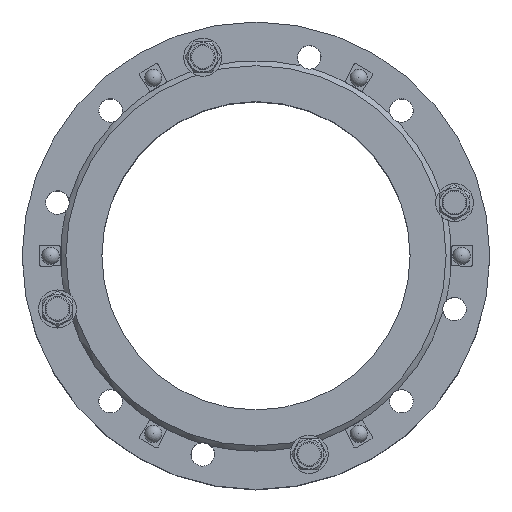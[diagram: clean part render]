
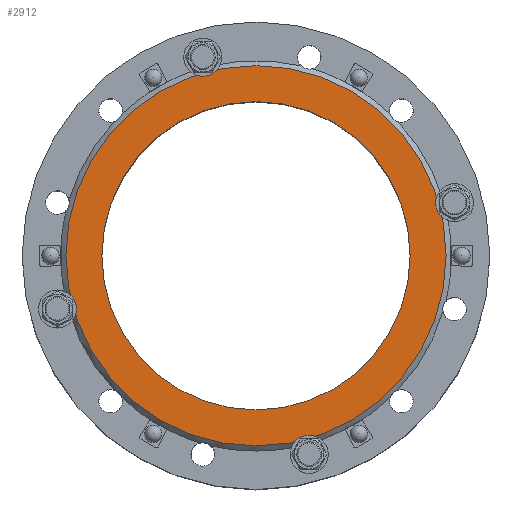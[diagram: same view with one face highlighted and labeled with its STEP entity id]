
A CAD part, top view. The second image highlights one B-rep face of the part: STEP entity #2912.
In plain terms, the highlighted planar face has unit normal (0, 0, 1) as drawn and (0, 0, -1) by its records, which use the part's own axes.
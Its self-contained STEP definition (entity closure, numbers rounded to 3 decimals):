
#2912=ADVANCED_FACE('',(#4399,#4401),#4403,.F.);
#4399=FACE_BOUND('',#4400,.T.);
#4400=EDGE_LOOP('',(#6535));
#4401=FACE_BOUND('',#4402,.T.);
#4402=EDGE_LOOP('',(#6536));
#4403=PLANE('',#4404);
#4404=AXIS2_PLACEMENT_3D('',#4405,#4406,#4407);
#4405=CARTESIAN_POINT('',(0.,0.,0.));
#4406=DIRECTION('',(0.,0.,1.));
#4407=DIRECTION('',(-1.,0.,0.));
#6535=ORIENTED_EDGE('',*,*,#7367,.F.);
#6536=ORIENTED_EDGE('',*,*,#7479,.T.);
#7367=EDGE_CURVE('',#8378,#8378,#8379,.T.);
#7479=EDGE_CURVE('',#8552,#8552,#8553,.T.);
#8378=VERTEX_POINT('',#14896);
#8379=CIRCLE('',#14897,185.);
#8552=VERTEX_POINT('',#15332);
#8553=CIRCLE('',#15333,150.);
#14896=CARTESIAN_POINT('',(-185.,0.,0.));
#14897=AXIS2_PLACEMENT_3D('',#14898,#14899,#14900);
#14898=CARTESIAN_POINT('',(0.,0.,0.));
#14899=DIRECTION('',(0.,0.,1.));
#14900=DIRECTION('',(-1.,0.,0.));
#15332=CARTESIAN_POINT('',(-150.,0.,0.));
#15333=AXIS2_PLACEMENT_3D('',#15334,#15335,#15336);
#15334=CARTESIAN_POINT('',(0.,0.,0.));
#15335=DIRECTION('',(0.,0.,1.));
#15336=DIRECTION('',(-1.,0.,0.));
